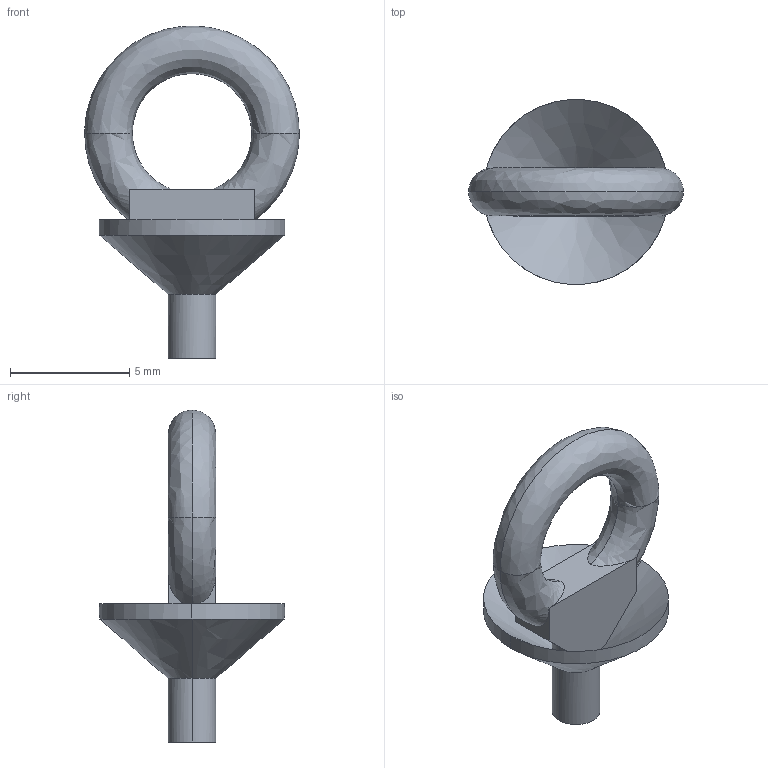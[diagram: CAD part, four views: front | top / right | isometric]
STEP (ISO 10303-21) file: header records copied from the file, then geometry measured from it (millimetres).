
FILE_DESCRIPTION(/* description */ (''),/* implementation_level */ '2;1');
FILE_NAME(/* name */ 'LUXYOU~1',/* time_stamp */ '2019-01-29T16:12:16+01:00',/* author */ (''),/* organization */ (''),/* preprocessor_version */ 'ST-DEVELOPER v15',/* originating_system */ '',/* authorisation */ '');
FILE_SCHEMA (('AUTOMOTIVE_DESIGN'));
Length unit declared in the file: millimetre
Products named in the file (1): Document
Bounding box: 9 x 7.76 x 13.92 mm (x, y, z)
Volume: 123.3 mm3; surface area: 312.3 mm2
Topology: 1 solids, 1 shells, 31 faces, 89 edges, 54 vertices
Faces by surface type: plane 16, bspline 15
Entity records: 1207 total; most frequent: CARTESIAN_POINT 675, ORIENTED_EDGE 178, EDGE_CURVE 89, VERTEX_POINT 54, B_SPLINE_CURVE_WITH_KNOTS 52, EDGE_LOOP 35, ADVANCED_FACE 31, FACE_OUTER_BOUND 31
